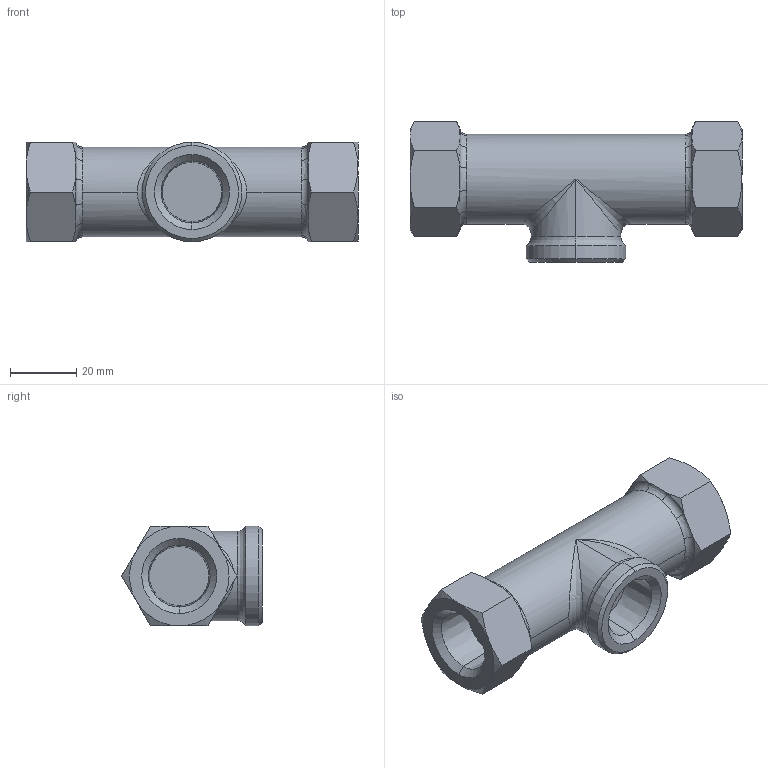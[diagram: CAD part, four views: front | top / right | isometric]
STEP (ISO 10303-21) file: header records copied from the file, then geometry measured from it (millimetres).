
FILE_DESCRIPTION (( 'STEP AP203' ), '1' );
FILE_NAME ('MS-1 15A.STEP', '2026-01-23T01:47:50', ( '' ), ( '' ), 'SwSTEP 2.0', 'SolidWorks 2024', '' );
FILE_SCHEMA (( 'CONFIG_CONTROL_DESIGN' ));
Length unit declared in the file: millimetre
Products named in the file (1): MS-1 15A
Bounding box: 100 x 42.32 x 30 mm (x, y, z)
Volume: 61428.6 mm3; surface area: 14150.6 mm2
Topology: 1 solids, 1 shells, 102 faces, 243 edges, 142 vertices
Faces by surface type: cone 38, plane 30, torus 14, bspline 14, cylinder 6
Entity records: 3738 total; most frequent: CARTESIAN_POINT 1448, ORIENTED_EDGE 478, DIRECTION 455, EDGE_CURVE 239, AXIS2_PLACEMENT_3D 193, VERTEX_POINT 142, EDGE_LOOP 105, CIRCLE 104
